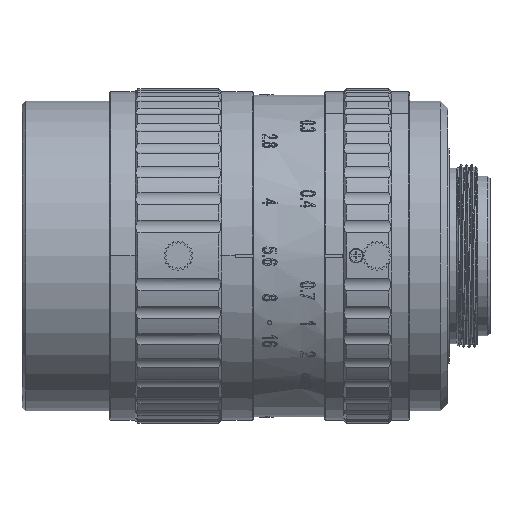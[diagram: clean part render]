
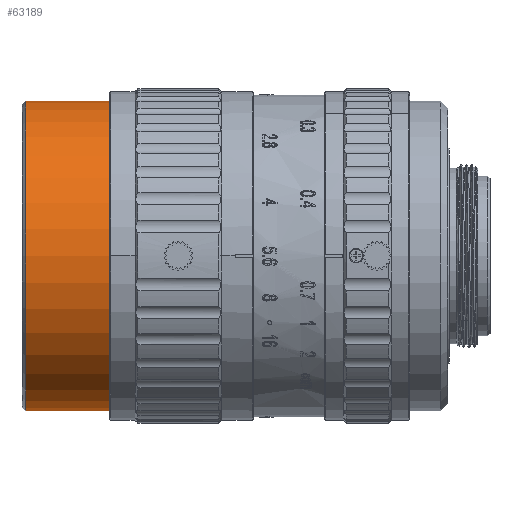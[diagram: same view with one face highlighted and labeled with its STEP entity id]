
A CAD part, top view. The second image highlights one B-rep face of the part: STEP entity #63189.
In plain terms, the highlighted cylindrical face has radius 21.5 mm (diameter 43 mm), a partial arc.
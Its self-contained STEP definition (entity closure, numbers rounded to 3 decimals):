
#62651=CARTESIAN_POINT('',(-31.288,0.,0.));
#62652=DIRECTION('',(1.,0.,0.));
#62653=DIRECTION('',(0.,1.,0.));
#62654=AXIS2_PLACEMENT_3D('',#62651,#62652,#62653);
#62656=CARTESIAN_POINT('',(-31.288,0.,0.));
#62657=DIRECTION('',(1.,0.,0.));
#62658=DIRECTION('',(0.,0.,1.));
#62659=AXIS2_PLACEMENT_3D('',#62656,#62657,#62658);
#62661=DIRECTION('',(-1.,0.,0.));
#62662=VECTOR('',#62661,12.4);
#62663=CARTESIAN_POINT('',(-31.288,-21.5,
0.));
#62664=LINE('',#62663,#62662);
#62665=DIRECTION('',(1.,0.,0.));
#62666=VECTOR('',#62665,12.4);
#62667=CARTESIAN_POINT('',(-43.688,21.5,0.));
#62668=LINE('',#62667,#62666);
#62669=CARTESIAN_POINT('',(-43.688,0.,
0.));
#62670=DIRECTION('',(1.,0.,0.));
#62671=DIRECTION('',(0.,1.,0.));
#62672=AXIS2_PLACEMENT_3D('',#62669,#62670,#62671);
#62674=CARTESIAN_POINT('',(-43.688,0.,
0.));
#62675=DIRECTION('',(1.,0.,0.));
#62676=DIRECTION('',(0.,0.,1.));
#62677=AXIS2_PLACEMENT_3D('',#62674,#62675,#62676);
#62836=CARTESIAN_POINT('',(-31.288,21.5,
0.));
#62837=VERTEX_POINT('',#62836);
#62838=CARTESIAN_POINT('',(-31.288,-21.5,
0.));
#62839=VERTEX_POINT('',#62838);
#62840=CARTESIAN_POINT('',(-43.688,21.5,0.));
#62841=VERTEX_POINT('',#62840);
#62842=CARTESIAN_POINT('',(-43.688,-21.5,0.));
#62843=VERTEX_POINT('',#62842);
#62844=CARTESIAN_POINT('',(-31.288,0.,21.5));
#62845=VERTEX_POINT('',#62844);
#62846=CARTESIAN_POINT('',(-43.688,0.,21.5));
#62847=VERTEX_POINT('',#62846);
#63174=CARTESIAN_POINT('',(-43.936,0.,0.));
#63175=DIRECTION('',(1.,0.,0.));
#63176=DIRECTION('',(0.,1.,0.));
#63177=AXIS2_PLACEMENT_3D('',#63174,#63175,#63176);
#63178=CYLINDRICAL_SURFACE('',#63177,21.5);
#63179=ORIENTED_EDGE('',*,*,#63139,.T.);
#63180=ORIENTED_EDGE('',*,*,#63137,.T.);
#63181=ORIENTED_EDGE('',*,*,#63169,.T.);
#63183=ORIENTED_EDGE('',*,*,#63182,.F.);
#63185=ORIENTED_EDGE('',*,*,#63184,.F.);
#63186=ORIENTED_EDGE('',*,*,#63165,.T.);
#63187=EDGE_LOOP('',(#63179,#63180,#63181,#63183,#63185,#63186));
#63188=FACE_OUTER_BOUND('',#63187,.F.);
#62655=CIRCLE('',#62654,21.5);
#62660=CIRCLE('',#62659,21.5);
#62673=CIRCLE('',#62672,21.5);
#62678=CIRCLE('',#62677,21.5);
#63137=EDGE_CURVE('',#62845,#62839,#62660,.T.);
#63139=EDGE_CURVE('',#62837,#62845,#62655,.T.);
#63165=EDGE_CURVE('',#62841,#62837,#62668,.T.);
#63169=EDGE_CURVE('',#62839,#62843,#62664,.T.);
#63182=EDGE_CURVE('',#62847,#62843,#62678,.T.);
#63184=EDGE_CURVE('',#62841,#62847,#62673,.T.);
#63189=ADVANCED_FACE('',(#63188),#63178,.T.);
